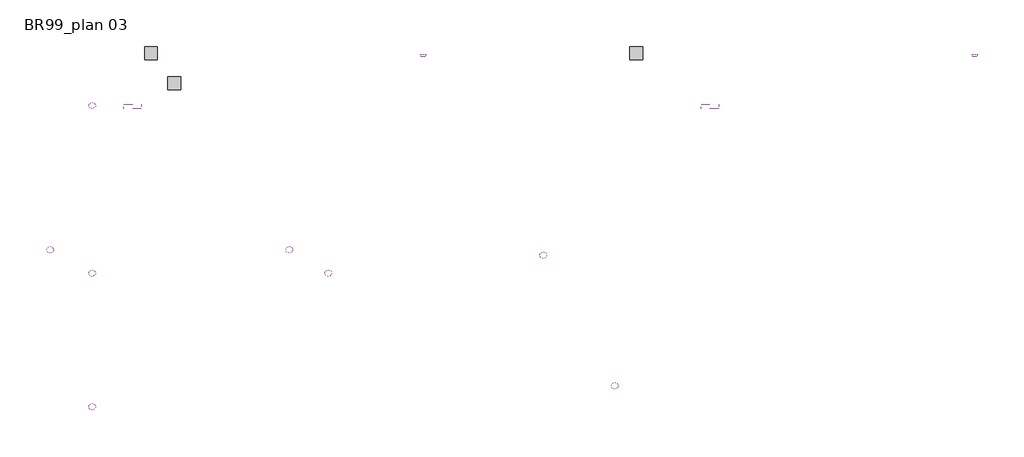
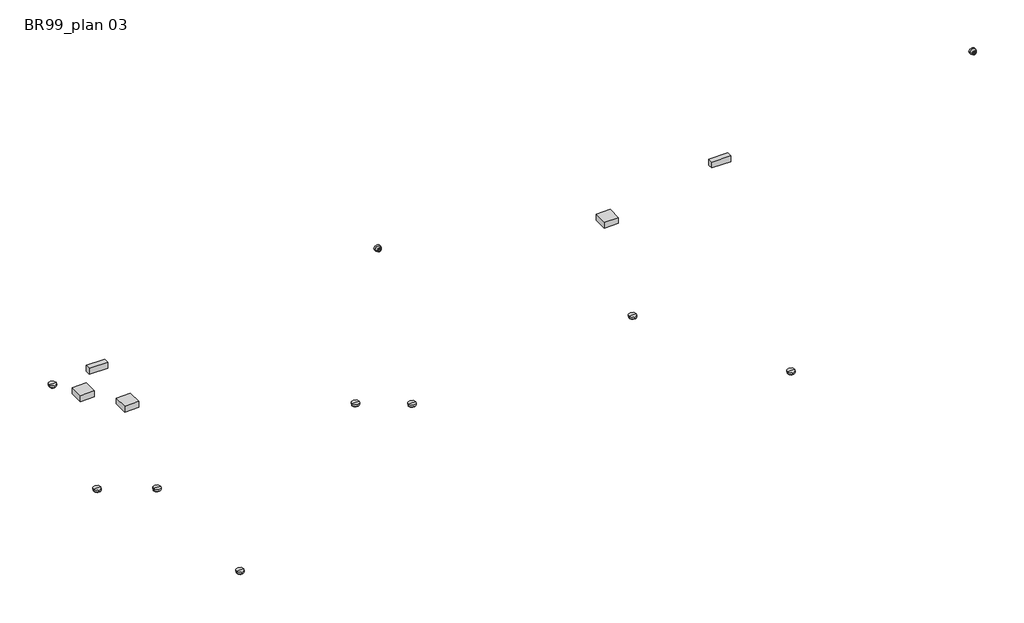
# One storey: 13 alarms, 2 proxies.
"""IFC4 building model written with IfcOpenShell, lengths in millimetres."""

from ifc_helpers import new_model, si_unit, origin, place, context, project, spatial, transform, mapped, element, save
from components import alarm_d4f96eb5, alarm_f33bc343, alarm_2d409914, specialty_equipment_c2dee52f

model = new_model("IFC4")

# Units and contexts
model_context = context("Model", 3, world=origin())
ifc_project = project(units=[si_unit("LENGTHUNIT", "METRE", prefix="MILLI")], contexts=[model_context])

# Site, building, storey
site = spatial("IfcSite", under=ifc_project)
building = spatial("IfcBuilding", under=site)
storey = spatial("IfcBuildingStorey", under=building, Name="BR99_plan 03", Elevation=6000.0)

# Alarms
placement = place(None, origin())
alarm_shape = alarm_d4f96eb5(model_context)
element("IfcAlarm", 1, ObjectType="Rökdetektor : Rökdetektor", at=placement, inside=storey, context=model_context, shape_type="MappedRepresentation", body=[
    mapped(alarm_shape, transform((40590.3123651, 51502.9401057, 6000.0), x_axis=(1.0, 0.0, 0.0), y_axis=(0.0, 1.0, 0.0), z_axis=(0.0, 0.0, 1.0))),
])
element("IfcAlarm", 2, ObjectType="Rökdetektor : Rökdetektor", at=placement, inside=storey, context=model_context, shape_type="MappedRepresentation", body=[
    mapped(alarm_shape, transform((44713.8189864, 51502.9401057, 6000.0), x_axis=(1.0, 0.0, 0.0), y_axis=(0.0, 1.0, 0.0), z_axis=(0.0, 0.0, 1.0))),
])
element("IfcAlarm", 3, ObjectType="Rökdetektor : Rökdetektor", at=placement, inside=storey, context=model_context, shape_type="MappedRepresentation", body=[
    mapped(alarm_shape, transform((49086.8598828, 51412.9030373, 6000.0), x_axis=(1.0, 0.0, 0.0), y_axis=(0.0, 1.0, 0.0), z_axis=(0.0, 0.0, 1.0))),
])
element("IfcAlarm", 4, ObjectType="Rökdetektor : Rökdetektor", at=placement, inside=storey, context=model_context, shape_type="MappedRepresentation", body=[
    mapped(alarm_shape, transform((41313.8189864, 53988.3218408, 6000.0), x_axis=(1.0, 0.0, 0.0), y_axis=(0.0, 1.0, 0.0), z_axis=(0.0, 0.0, 1.0))),
])
element("IfcAlarm", 5, ObjectType="Rökdetektor : Rökdetektor", at=placement, inside=storey, context=model_context, shape_type="MappedRepresentation", body=[
    mapped(alarm_shape, transform((50313.8189864, 49158.6231779, 6000.0), x_axis=(1.0, 0.0, 0.0), y_axis=(0.0, 1.0, 0.0), z_axis=(0.0, 0.0, 1.0))),
])
element("IfcAlarm", 6, ObjectType="Rökdetektor med akustiskt larmdon : Rökdetektor med akustiskt larmdon", at=placement, inside=storey, context=model_context, shape_type="MappedRepresentation", body=[
    mapped(alarm_shape, transform((41313.8189864, 48802.9401057, 6000.0), x_axis=(1.0, 0.0, 0.0), y_axis=(0.0, 1.0, 0.0), z_axis=(0.0, 0.0, 1.0))),
])
element("IfcAlarm", 7, ObjectType="Rökdetektor dold : Rökdetektor dold", at=placement, inside=storey, context=model_context, shape_type="MappedRepresentation", body=[
    mapped(alarm_shape, transform((41313.8189864, 51102.9401057, 6000.0), x_axis=(1.0, 0.0, 0.0), y_axis=(0.0, 1.0, 0.0), z_axis=(0.0, 0.0, 1.0))),
])
element("IfcAlarm", 8, ObjectType="Rökdetektor dold : Rökdetektor dold", at=placement, inside=storey, context=model_context, shape_type="MappedRepresentation", body=[
    mapped(alarm_shape, transform((45385.2541205, 51102.9401057, 6000.0), x_axis=(1.0, 0.0, 0.0), y_axis=(0.0, 1.0, 0.0), z_axis=(0.0, 0.0, 1.0))),
])
alarm_2_shape = alarm_f33bc343(model_context)
element("IfcAlarm", 9, ObjectType="Branddörr IR frånkopplas : Branddörr IR frånkopplas", at=placement, inside=storey, context=model_context, shape_type="MappedRepresentation", body=[
    mapped(alarm_2_shape, transform((42730.2885508, 54368.4903504, 6000.0), x_axis=(1.0, 0.0, 0.0), y_axis=(0.0, 1.0, 0.0), z_axis=(0.0, 0.0, 1.0))),
])
alarm_3_shape = alarm_2d409914(model_context)
element("IfcAlarm", 10, ObjectType="Larmpelare : Larmpelare", at=placement, inside=storey, context=model_context, shape_type="MappedRepresentation", body=[
    mapped(alarm_3_shape, transform((47015.5942679, 54892.0441077, 6000.0), x_axis=(1.0, 0.0, 0.0), y_axis=(0.0, 1.0, 0.0), z_axis=(0.0, 0.0, 1.0))),
])
element("IfcAlarm", 11, ObjectType="Larmpelare : Larmpelare", at=placement, inside=storey, context=model_context, shape_type="MappedRepresentation", body=[
    mapped(alarm_3_shape, transform((56513.9376032, 54892.0441077, 6000.0), x_axis=(1.0, 0.0, 0.0), y_axis=(0.0, 1.0, 0.0), z_axis=(0.0, 0.0, 1.0))),
])
element("IfcAlarm", 12, ObjectType="S1 : S1", at=placement, inside=storey, context=model_context, shape_type="MappedRepresentation", body=[
    mapped(alarm_2_shape, transform((50688.9926226, 54892.0441077, 6000.0), x_axis=(1.0, 0.0, 0.0), y_axis=(0.0, 1.0, 0.0), z_axis=(0.0, 0.0, 1.0))),
])
element("IfcAlarm", 13, ObjectType="S1 : S1", at=placement, inside=storey, context=model_context, shape_type="MappedRepresentation", body=[
    mapped(alarm_2_shape, transform((42328.9926226, 54892.0441077, 6000.0), x_axis=(1.0, 0.0, 0.0), y_axis=(0.0, 1.0, 0.0), z_axis=(0.0, 0.0, 1.0))),
])

# Proxies
specialty_equipment_shape = specialty_equipment_c2dee52f(model_context)
element("IfcBuildingElementProxy", 14, Name="VMN_N : VMN_N", ObjectType="VMN_N : VMN_N", at=placement, inside=storey, context=model_context, shape_type="MappedRepresentation", body=[
    mapped(specialty_equipment_shape, transform((51955.6727142, 54010.4816582, 6000.0), x_axis=(1.0, 0.0, 0.0), y_axis=(0.0, 1.0, 0.0), z_axis=(0.0, 0.0, 1.0))),
])
element("IfcBuildingElementProxy", 15, Name="VMN_N : VMN_N", ObjectType="VMN_N : VMN_N", at=placement, inside=storey, context=model_context, shape_type="MappedRepresentation", body=[
    mapped(specialty_equipment_shape, transform((42013.8189864, 54010.4816582, 6000.0), x_axis=(1.0, 0.0, 0.0), y_axis=(0.0, 1.0, 0.0), z_axis=(0.0, 0.0, 1.0))),
])

save(model, "model.ifc")
